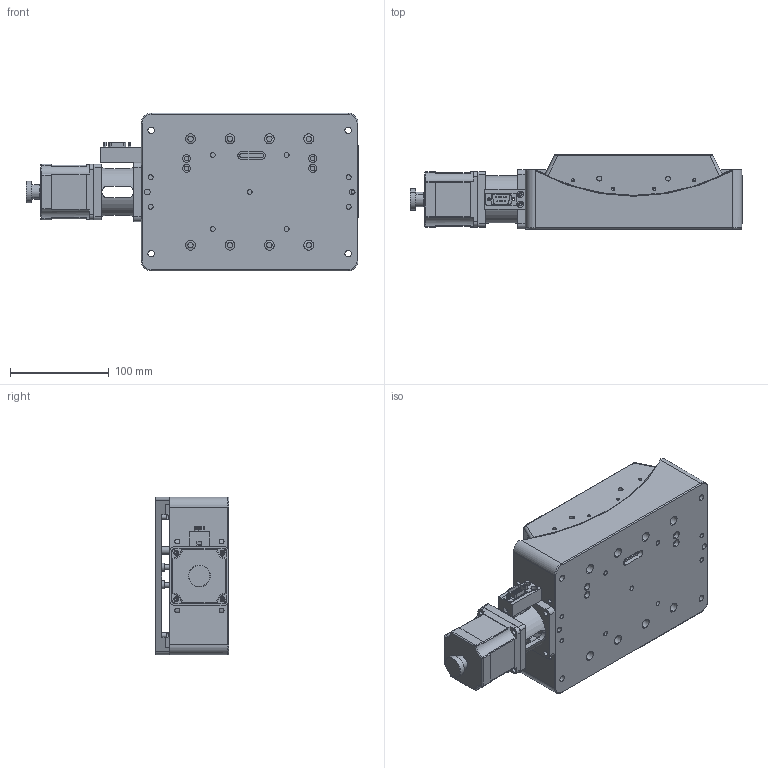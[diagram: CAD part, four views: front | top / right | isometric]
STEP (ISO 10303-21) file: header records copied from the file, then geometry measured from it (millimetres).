
FILE_DESCRIPTION (( 'STEP AP203' ), '1' );
FILE_NAME ('HGGA215 三维模型图.STEP', '2021-02-26T06:20:16', ( '' ), ( '' ), 'SwSTEP 2.0', 'SolidWorks 2016', '' );
FILE_SCHEMA (( 'CONFIG_CONTROL_DESIGN' ));
Length unit declared in the file: millimetre
Products named in the file (1): HGGA215 三维模型图
Bounding box: 337 x 75 x 160 mm (x, y, z)
Surface area: 261760.6 mm2 (no closed solid volume)
Topology: 0 solids, 28 shells, 686 faces, 2502 edges, 1768 vertices
Faces by surface type: cylinder 359, plane 254, bspline 29, sphere 24, cone 12, torus 8
Entity records: 31658 total; most frequent: CARTESIAN_POINT 10086, DIRECTION 4614, ORIENTED_EDGE 4093, EDGE_CURVE 2498, VERTEX_POINT 1768, AXIS2_PLACEMENT_3D 1696, LINE 1222, VECTOR 1222
